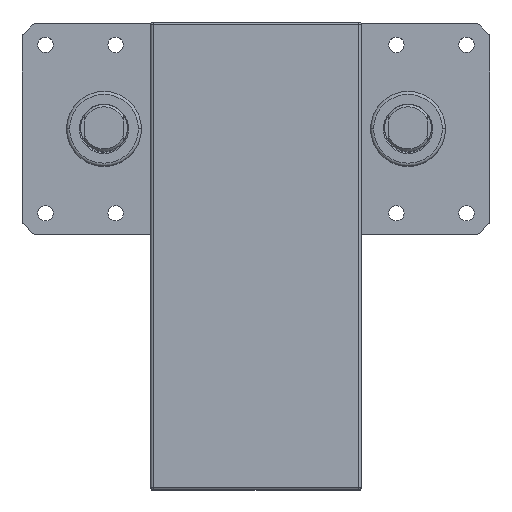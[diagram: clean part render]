
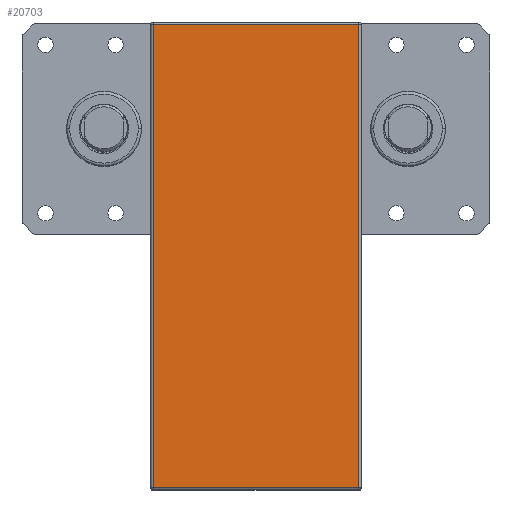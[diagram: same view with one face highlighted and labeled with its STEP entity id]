
A CAD part, top view. The second image highlights one B-rep face of the part: STEP entity #20703.
In plain terms, the highlighted planar face has unit normal (0, 0, 1).
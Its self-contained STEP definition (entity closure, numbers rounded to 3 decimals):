
#1879 = DIRECTION ( 'NONE',  ( 1., 0., 0. ) ) ;
#2626 = LINE ( 'NONE', #47454, #42190 ) ;
#3266 = VERTEX_POINT ( 'NONE', #36512 ) ;
#3654 = DIRECTION ( 'NONE',  ( 0., 1., 0. ) ) ;
#9423 = VERTEX_POINT ( 'NONE', #36834 ) ;
#10168 = LINE ( 'NONE', #19614, #28820 ) ;
#10957 = AXIS2_PLACEMENT_3D ( 'NONE', #42683, #38965, #1879 ) ;
#11383 = FACE_OUTER_BOUND ( 'NONE', #43489, .T. ) ;
#12502 = EDGE_CURVE ( 'NONE', #18371, #37488, #10168, .T. ) ;
#12935 = ORIENTED_EDGE ( 'NONE', *, *, #32840, .T. ) ;
#14558 = VECTOR ( 'NONE', #3654, 1000. ) ;
#15602 = LINE ( 'NONE', #18981, #35388 ) ;
#16754 = CARTESIAN_POINT ( 'NONE',  ( -44., -154., 413. ) ) ;
#17561 = CARTESIAN_POINT ( 'NONE',  ( -44., 44., 413. ) ) ;
#18371 = VERTEX_POINT ( 'NONE', #17561 ) ;
#18981 = CARTESIAN_POINT ( 'NONE',  ( -44., 44., 413. ) ) ;
#19614 = CARTESIAN_POINT ( 'NONE',  ( -44., -154., 413. ) ) ;
#20703 = ADVANCED_FACE ( 'NONE', ( #11383 ), #24180, .T. ) ;
#22375 = CARTESIAN_POINT ( 'NONE',  ( 44., 44., 413. ) ) ;
#22733 = DIRECTION ( 'NONE',  ( -1., 0., 0. ) ) ;
#23358 = DIRECTION ( 'NONE',  ( 0., -1., 0. ) ) ;
#24180 = PLANE ( 'NONE',  #10957 ) ;
#24520 = ORIENTED_EDGE ( 'NONE', *, *, #12502, .T. ) ;
#28820 = VECTOR ( 'NONE', #23358, 1000. ) ;
#28969 = DIRECTION ( 'NONE',  ( 1., 0., 0. ) ) ;
#29946 = ORIENTED_EDGE ( 'NONE', *, *, #45441, .T. ) ;
#32840 = EDGE_CURVE ( 'NONE', #9423, #3266, #44213, .T. ) ;
#34701 = EDGE_CURVE ( 'NONE', #3266, #18371, #15602, .T. ) ;
#35388 = VECTOR ( 'NONE', #22733, 1000. ) ;
#36512 = CARTESIAN_POINT ( 'NONE',  ( 44., 44., 413. ) ) ;
#36834 = CARTESIAN_POINT ( 'NONE',  ( 44., -154., 413. ) ) ;
#37488 = VERTEX_POINT ( 'NONE', #16754 ) ;
#38965 = DIRECTION ( 'NONE',  ( 0., 0., 1. ) ) ;
#42190 = VECTOR ( 'NONE', #28969, 1000. ) ;
#42683 = CARTESIAN_POINT ( 'NONE',  ( -44., -154., 413. ) ) ;
#43489 = EDGE_LOOP ( 'NONE', ( #24520, #29946, #12935, #46094 ) ) ;
#44213 = LINE ( 'NONE', #22375, #14558 ) ;
#45441 = EDGE_CURVE ( 'NONE', #37488, #9423, #2626, .T. ) ;
#46094 = ORIENTED_EDGE ( 'NONE', *, *, #34701, .T. ) ;
#47454 = CARTESIAN_POINT ( 'NONE',  ( 44., -154., 413. ) ) ;
